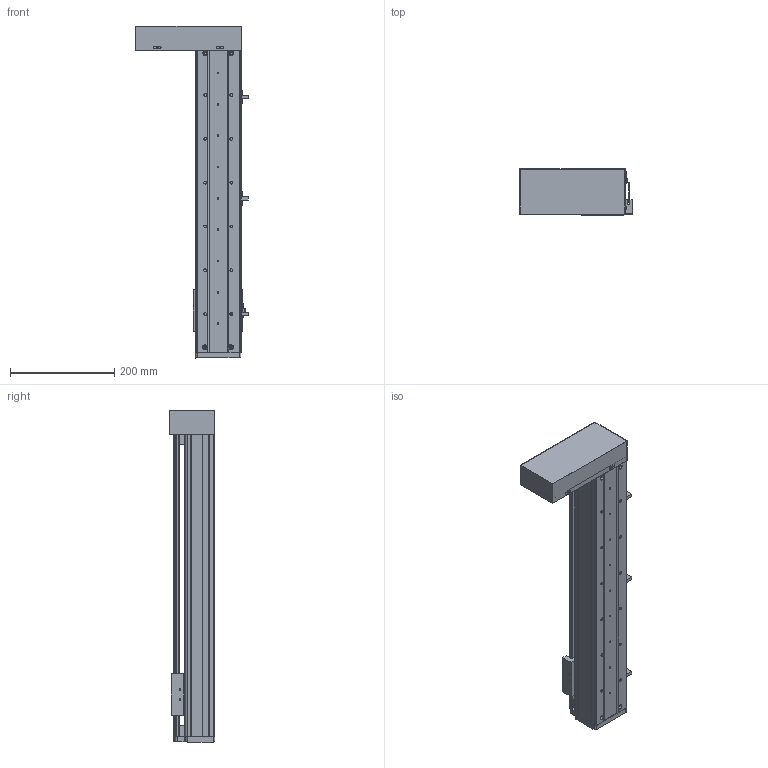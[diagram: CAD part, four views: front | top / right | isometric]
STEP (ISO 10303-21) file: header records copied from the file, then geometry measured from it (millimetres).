
FILE_DESCRIPTION (( 'STEP AP214' ), '1' );
FILE_NAME ('CF86-C-400-FWL.STEP', '2020-01-15T08:30:11', ( '微软用户' ), ( '微软中国' ), 'SwSTEP 2.0', 'SolidWorks 2016', '' );
FILE_SCHEMA (( 'AUTOMOTIVE_DESIGN' ));
Length unit declared in the file: millimetre
Products named in the file (13): 86耜啣; CF86-C-400-FWL; 嫖萇羲壽; 75-86-95癹弇羲壽覜茼え; CF86肮祭湍欶酘殏; CF86左折弯电机安装板; CF86賑輸; 02 86盓傅釱; 01 86嘐隅釱; EGW15CA賑輸; EGR15-400; 86臏倰第-400; 86裔啣-400
Assembly tree (14 placements, depth 2):
  CF86-C-400-FWL
    86耜啣
    86裔啣-400
    86臏倰第-400
    EGR15-400
    EGW15CA賑輸
    01 86嘐隅釱
    02 86盓傅釱
    CF86賑輸
    CF86左折弯电机安装板
    CF86肮祭湍欶酘殏
    75-86-95癹弇羲壽覜茼え
    嫖萇羲壽  x3
Bounding box: 215.22 x 88 x 636 mm (x, y, z)
Volume: 1667610.4 mm3; surface area: 661053 mm2
Topology: 14 solids, 14 shells, 678 faces, 1841 edges, 1218 vertices
Faces by surface type: plane 365, cylinder 305, cone 8
Entity records: 21736 total; most frequent: CARTESIAN_POINT 3695, DIRECTION 3533, ORIENTED_EDGE 3378, EDGE_CURVE 1689, AXIS2_PLACEMENT_3D 1244, VERTEX_POINT 1122, LINE 1045, VECTOR 1045
